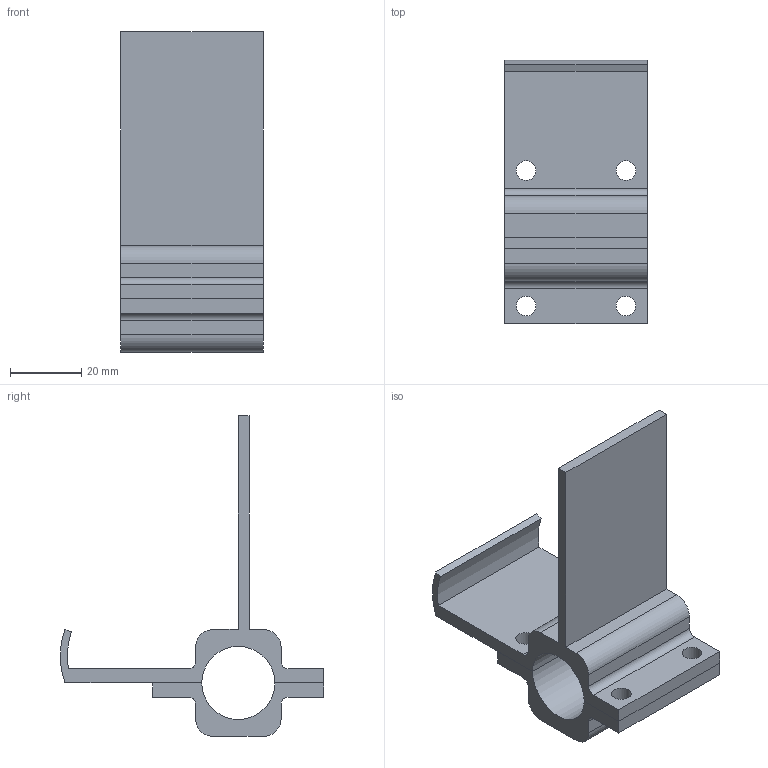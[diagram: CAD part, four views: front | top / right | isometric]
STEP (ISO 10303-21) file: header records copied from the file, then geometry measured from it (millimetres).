
FILE_DESCRIPTION(/* description */ (''),/* implementation_level */ '2;1');
FILE_NAME(/* name */ 'door_handle v5.step',/* time_stamp */ '2026-04-10T14:29:12+02:00',/* author */ (''),/* organization */ (''),/* preprocessor_version */ 'ST-DEVELOPER v20.1',/* originating_system */ 'Autodesk Translation Framework v14.24.0.0',/* authorisation */ '');
FILE_SCHEMA (('AUTOMOTIVE_DESIGN { 1 0 10303 214 3 1 1 }'));
Length unit declared in the file: millimetre
Products named in the file (1): (Niezapisany)
Bounding box: 40 x 74 x 90 mm (x, y, z)
Volume: 33904.8 mm3; surface area: 20127.7 mm2
Topology: 2 solids, 2 shells, 46 faces, 126 edges, 84 vertices
Faces by surface type: plane 26, cylinder 20
Full cylindrical faces by diameter (mm): 5.5 x8
Entity records: 1534 total; most frequent: DIRECTION 260, CARTESIAN_POINT 257, ORIENTED_EDGE 252, EDGE_CURVE 126, AXIS2_PLACEMENT_3D 87, LINE 86, VECTOR 86, VERTEX_POINT 84
